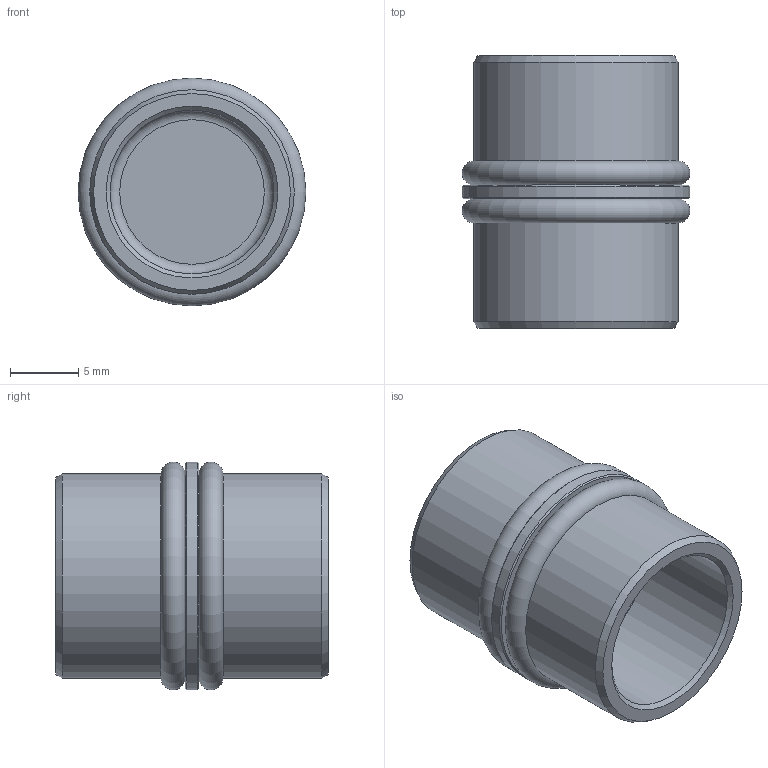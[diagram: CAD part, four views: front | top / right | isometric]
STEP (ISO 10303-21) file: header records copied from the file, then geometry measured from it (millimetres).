
FILE_DESCRIPTION(/* description */ ('BUSSOLA INTERBASE DI TENUTA'),/* implementation_level */ '2;1');
FILE_NAME(/* name */ 'I:\Area Tecnica\Disegni\VARIE-3D\Componenti\T400\T424\T424_31.stp',/* time_stamp */ '2015-09-23T13:46:00+02:00',/* author */ ('maniean1'),/* organization */ ('Pneumax S.p.A.'),/* preprocessor_version */ 'ST-DEVELOPER v15.2',/* originating_system */ 'Autodesk Inventor 2014',/* authorisation */ '');
FILE_SCHEMA (('AUTOMOTIVE_DESIGN { 1 0 10303 214 3 1 1 }'));
Length unit declared in the file: millimetre
Products named in the file (1): T424_31
Bounding box: 16.7 x 20 x 16.7 mm (x, y, z)
Volume: 1585.9 mm3; surface area: 2138.7 mm2
Topology: 1 solids, 1 shells, 21 faces, 35 edges, 20 vertices
Faces by surface type: plane 6, cone 6, cylinder 5, torus 4
Full cylindrical faces by diameter (mm): 12 x2, 15 x2, 16.7 x1
Entity records: 447 total; most frequent: DIRECTION 84, CARTESIAN_POINT 62, AXIS2_PLACEMENT_3D 42, EDGE_LOOP 40, ORIENTED_EDGE 40, FACE_BOUND 21, ADVANCED_FACE 21, CIRCLE 20
